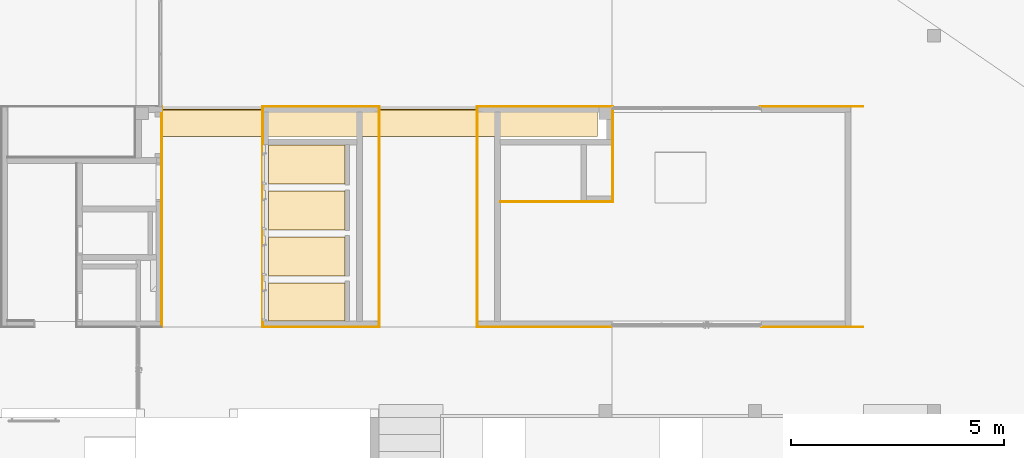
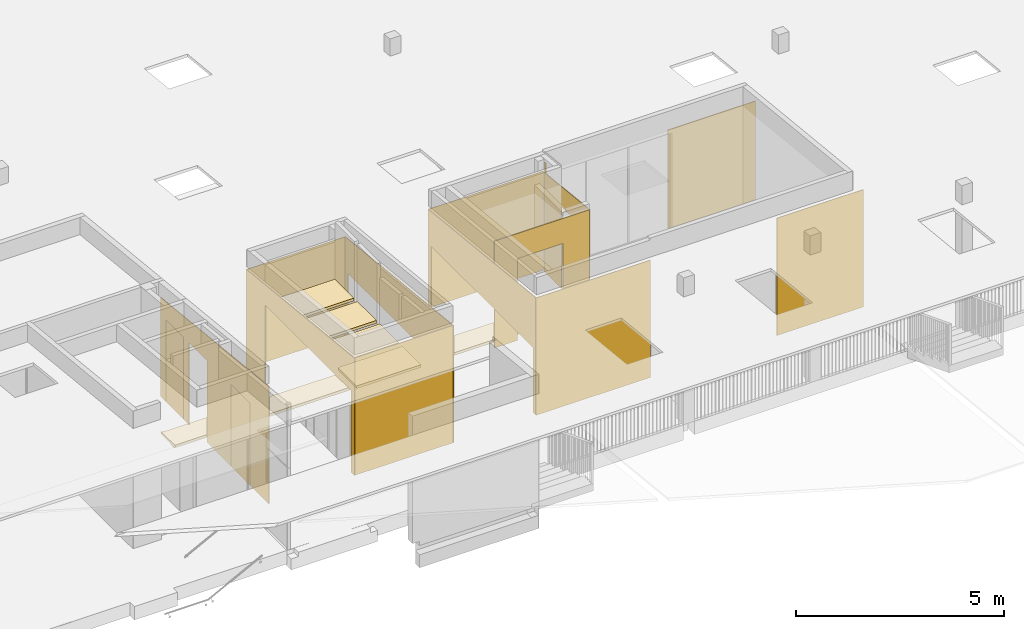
# One storey, part 35 of 43: 17 coverings, 2 doors, 8 openings.
"""IFC2X3 building model written with IfcOpenShell, lengths in millimetres."""

from ifc_helpers import new_model, entity, si_unit, converted_unit, derived_unit, money_unit, direction, frame, origin_with_axes, place, context, subcontext, project, spatial, faceted_brep, material, material_list, type_object, element, fill, save


model = new_model("IFC2X3")

# Units and contexts
model_context = context("Model", 3, precision=0.01, world=origin_with_axes(), true_north=direction((0.0, 1.0)))
body_context = subcontext(model_context, "Body", "Model", "MODEL_VIEW")
ifc_project = project(units=[si_unit("LENGTHUNIT", "METRE", prefix="MILLI"), si_unit("AREAUNIT", "SQUARE_METRE"), si_unit("VOLUMEUNIT", "CUBIC_METRE"), converted_unit("PLANEANGLEUNIT", "DEGREE", entity("IfcPlaneAngleMeasure", 0.0174532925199), si_unit("PLANEANGLEUNIT", "RADIAN"), dimensions=[0, 0, 0, 0, 0, 0, 0]), si_unit("SOLIDANGLEUNIT", "STERADIAN"), money_unit("EUR"), converted_unit("TIMEUNIT", "Year", entity("IfcTimeMeasure", 31556926.0), si_unit("TIMEUNIT", "SECOND"), dimensions=[0, 0, 1, 0, 0, 0, 0]), si_unit("MASSUNIT", "GRAM", prefix="KILO"), si_unit("THERMODYNAMICTEMPERATUREUNIT", "DEGREE_CELSIUS"), si_unit("LUMINOUSINTENSITYUNIT", "LUMEN"), si_unit("ENERGYUNIT", "JOULE", prefix="MEGA"), derived_unit("THERMALCONDUCTANCEUNIT", [(si_unit("POWERUNIT", "WATT"), 1), (si_unit("LENGTHUNIT", "METRE"), -1), (si_unit("THERMODYNAMICTEMPERATUREUNIT", "KELVIN"), -1)]), derived_unit("SPECIFICHEATCAPACITYUNIT", [(si_unit("ENERGYUNIT", "JOULE"), 1), (si_unit("MASSUNIT", "GRAM", prefix="KILO"), -1), (si_unit("THERMODYNAMICTEMPERATUREUNIT", "KELVIN"), -1)]), derived_unit("MASSDENSITYUNIT", [(si_unit("MASSUNIT", "GRAM", prefix="KILO"), 1), (si_unit("VOLUMEUNIT", "CUBIC_METRE"), -1)])], contexts=[model_context])

# Site, building, storey
site_placement = place(None, origin_with_axes())
site = spatial("IfcSite", under=ifc_project, at=site_placement, Name="L.Koidula tn 11b", CompositionType="ELEMENT")
building_placement = place(site_placement, origin_with_axes())
building = spatial("IfcBuilding", under=site, at=building_placement, Name="Rakvere Riigigümnaasium", CompositionType="ELEMENT")
storey_placement = place(building_placement, frame((0.0, 0.0, 6665.0), z_axis=(0.0, 0.0, 1.0), x_axis=(1.0, 0.0, 0.0)))
storey = spatial("IfcBuildingStorey", under=building, at=storey_placement, Name="3.korrus +6,66", CompositionType="ELEMENT", Elevation=6665.0)

# Coverings
ifc_material_1 = material(Name="mineraalvill+karkass")
ifc_material_2 = material(Name="SKR-02_Kipsplaat")
ifc_material_list_1 = material_list([ifc_material_1, ifc_material_2])
covering_type_1 = type_object("IfcCoveringType", Name="SA-LV-kips 79", PredefinedType="CEILING")
covering_1_placement = place(storey_placement, frame((50119.604162, 19370.4397072, 2400.0), z_axis=(0.0, 0.0, 1.0), x_axis=(1.0, 0.0, 0.0)))
element("IfcCovering", 1, at=covering_1_placement, inside=storey, type_object=covering_type_1, material=ifc_material_list_1, Name="L-04", PredefinedType="CEILING", context=body_context, shape_type="Brep", body=[
    faceted_brep([(1790.3958317, 0.0, 12.5), (1790.3958317, 0.0, 78.5), (0.0, 0.0, 78.5), (0.0, 0.0, 12.5), (1790.3958317, 900.003257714, 12.5), (1790.3958317, 900.003257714, 78.5), (0.0, 900.003257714, 78.5), (0.0, 900.003257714, 12.5)], [[[0, 1, 2, 3]], [[4, 5, 1, 0]], [[2, 1, 5, 6]], [[3, 2, 6, 7]], [[3, 7, 4, 0]], [[7, 6, 5, 4]]]),
    faceted_brep([(0.0, 0.0, 0.0), (1790.3958317, 0.0, 0.0), (1790.3958317, 0.0, 12.5), (0.0, 0.0, 12.5), (0.0, 900.003257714, 0.0), (1790.3958317, 900.003257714, 0.0), (1790.3958317, 900.003257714, 12.5), (0.0, 900.003257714, 12.5)], [[[0, 1, 2, 3]], [[0, 4, 5, 1]], [[1, 5, 6, 2]], [[3, 2, 6, 7]], [[4, 0, 3, 7]], [[5, 4, 7, 6]]]),
])
for number, where, z_axis, x_axis, name in (
    (2, (50119.604162, 20430.4429526, 2400.0), (0.0, 0.0, 1.0), (1.0, 0.0, 0.0), "L-04"),
    (3, (50119.604162, 21510.446198, 2400.0), (0.0, 0.0, 1.0), (1.0, 0.0, 0.0), "L-04"),
    (4, (50119.604162, 22590.4494433, 2400.0), (0.0, 0.0, 1.0), (1.0, 0.0, 0.0), "L-04"),
):
    element("IfcCovering", number, at=place(storey_placement, frame(where, z_axis=z_axis, x_axis=x_axis)), inside=storey, type_object=covering_type_1, material=ifc_material_list_1, Name=name, PredefinedType="CEILING", context=body_context, shape_type="Brep", body=[
        faceted_brep([(1790.3958317, 0.0, 12.5), (1790.3958317, 0.0, 78.5), (0.0, 0.0, 78.5), (0.0, 0.0, 12.5), (1790.3958317, 920.003251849, 12.5), (1790.3958317, 920.003251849, 78.5), (0.0, 920.003251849, 78.5), (0.0, 920.003251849, 12.5)], [[[0, 1, 2, 3]], [[4, 5, 1, 0]], [[2, 1, 5, 6]], [[3, 2, 6, 7]], [[3, 7, 4, 0]], [[7, 6, 5, 4]]]),
        faceted_brep([(0.0, 0.0, 0.0), (1790.3958317, 0.0, 0.0), (1790.3958317, 0.0, 12.5), (0.0, 0.0, 12.5), (0.0, 920.003251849, 0.0), (1790.3958317, 920.003251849, 0.0), (1790.3958317, 920.003251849, 12.5), (0.0, 920.003251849, 12.5)], [[[0, 1, 2, 3]], [[0, 4, 5, 1]], [[1, 5, 6, 2]], [[3, 2, 6, 7]], [[4, 0, 3, 7]], [[5, 4, 7, 6]]]),
    ])

# Covering, openings, doors
ifc_material_3 = material(Name="MDF")
covering_type_2 = type_object("IfcCoveringType", Name="MDF 20", PredefinedType="CLADDING")
covering_2_placement = place(storey_placement, frame((47599.9999955, 24400.4555472, 0.0), z_axis=(0.0, 0.0, 1.0), x_axis=(0.0, -1.0, 0.0)))
covering_2 = element("IfcCovering", 5, at=covering_2_placement, inside=storey, type_object=covering_type_2, material=ifc_material_3, Name="S-05", PredefinedType="CLADDING", context=body_context, shape_type="Brep", body=[
    faceted_brep([(-20.0, 0.0, 2895.49979387), (-20.0, 20.0, 2895.49949027), (-20.0, 20.0, 0.0), (-20.0, 0.0, 0.0), (5177.58928972, 20.0, 3441.7881321), (-9.87085968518e-08, -0.00118496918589, 2897.60187856), (5160.01584041, -0.00118851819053, 3439.94139178), (5177.58640124, 0.0, 3441.7881321), (5180.01583998, 20.0, 3441.7881321), (5180.01583998, 20.0, 0.0), (4270.01583998, 20.0, 0.0), (4270.01583998, 20.0, 2400.0), (3360.01583998, 20.0, 2400.0), (3360.01583998, 20.0, 0.0), (2200.0, 20.0, 0.0), (2200.0, 20.0, 2400.0), (1340.0, 20.0, 2400.0), (1340.0, 20.0, 0.0), (1090.0, 20.0, 0.0), (1090.0, 20.0, 2400.0), (230.0, 20.0, 2400.0), (230.0, 20.0, 0.0), (230.0, 0.0, 0.0), (230.0, 0.0, 2400.0), (1090.0, 0.0, 2400.0), (1090.0, 0.0, 0.0), (1340.0, 0.0, 0.0), (1340.0, 0.0, 2400.0), (2200.0, 0.0, 2400.0), (2200.0, 0.0, 0.0), (3360.01583998, 0.0, 0.0), (3360.01583998, 0.0, 2400.0), (4270.01583998, 0.0, 2400.0), (4270.01583998, 0.0, 0.0), (5180.01583998, 0.0, 0.0), (5180.01583998, 0.0, 3441.7881321)], [[[0, 1, 2, 3]], [[4, 1, 0, 5, 6, 7]], [[1, 4, 8, 9, 10, 11, 12, 13, 14, 15, 16, 17, 18, 19, 20, 21, 2]], [[21, 22, 3, 2]], [[5, 0, 3, 22, 23, 24, 25, 26, 27, 28, 29, 30, 31, 32, 33, 34, 35, 7, 6]], [[4, 7, 35, 8]], [[34, 9, 8, 35]], [[34, 33, 10, 9]], [[32, 11, 10, 33]], [[31, 12, 11, 32]], [[30, 13, 12, 31]], [[14, 13, 30, 29]], [[14, 29, 28, 15]], [[15, 28, 27, 16]], [[16, 27, 26, 17]], [[25, 18, 17, 26]], [[19, 18, 25, 24]], [[20, 19, 24, 23]], [[21, 20, 23, 22]]]),
])
opening_1_placement = place(covering_2_placement, frame((660.0, 0.0, 0.0), z_axis=(0.0, 0.0, 1.0), x_axis=(1.0, 0.0, 0.0)))
opening_1 = element("IfcOpeningElement", 6, at=opening_1_placement, cuts=covering_2, Name="SL05", context=body_context, shape_type="Brep", body=[
    faceted_brep([(-430.0, 40.0, 2400.0), (-430.0, 40.0, 0.0), (-430.0, -20.0, 0.0), (-430.0, -20.0, 2400.0), (430.0, 40.0, 2400.0), (430.0, 40.0, 0.0), (430.0, -20.0, 0.0), (430.0, -20.0, 2400.0)], [[[0, 1, 2, 3]], [[0, 4, 5, 1]], [[1, 5, 6, 2]], [[3, 2, 6, 7]], [[4, 0, 3, 7]], [[5, 4, 7, 6]]]),
])
opening_2_placement = place(covering_2_placement, frame((3815.01583998, 0.0, 0.0), z_axis=(0.0, 0.0, 1.0), x_axis=(1.0, 0.0, 0.0)))
opening_2 = element("IfcOpeningElement", 7, at=opening_2_placement, cuts=covering_2, Name="SL06", context=body_context, shape_type="Brep", body=[
    faceted_brep([(-455.0, 40.0, 2400.0), (-455.0, 40.0, 0.0), (-455.0, -20.0, 0.0), (-455.0, -20.0, 2400.0), (455.0, 40.0, 2400.0), (455.0, 40.0, 0.0), (455.0, -20.0, 0.0), (455.0, -20.0, 2400.0)], [[[0, 1, 2, 3]], [[0, 4, 5, 1]], [[1, 5, 6, 2]], [[3, 2, 6, 7]], [[4, 0, 3, 7]], [[5, 4, 7, 6]]]),
])
opening_3_placement = place(covering_2_placement, frame((1770.0, 0.0, 0.0), z_axis=(0.0, 0.0, 1.0), x_axis=(1.0, 0.0, 0.0)))
element("IfcOpeningElement", 8, at=opening_3_placement, cuts=covering_2, Name="ava", context=body_context, shape_type="Brep", body=[
    faceted_brep([(-430.0, -20.0, 0.0), (-430.0, -20.0, 2400.0), (-430.0, 40.0, 2400.0), (-430.0, 40.0, 0.0), (430.0, -20.0, 0.0), (430.0, -20.0, 2400.0), (430.0, 40.0, 2400.0), (430.0, 40.0, 0.0)], [[[0, 1, 2, 3]], [[0, 4, 5, 1]], [[1, 5, 6, 2]], [[3, 2, 6, 7]], [[4, 0, 3, 7]], [[5, 4, 7, 6]]]),
])
door_style = type_object("IfcDoorStyle", Name="Door 23", ConstructionType="NOTDEFINED", OperationType="SINGLE_SWING_LEFT", ParameterTakesPrecedence=False, Sizeable=False)
door_1_placement = place(opening_1_placement, frame((-430.0, 0.0, 0.0), z_axis=(0.0, 0.0, 1.0), x_axis=(1.0, 0.0, 0.0)))
door_1 = element("IfcDoor", 9, at=door_1_placement, inside=storey, type_object=door_style, Name="SL05", ObjectType="DOOR", OverallHeight=2400.0, OverallWidth=860.0, context=body_context, shape_type="Brep", body=[
    faceted_brep([(0.0, 0.0, 0.0), (0.0, 20.0, 0.0), (860.0, 20.0, 0.0), (860.0, 0.0, 0.0), (0.0, 0.0, 2400.0), (0.0, 20.0, 2400.0), (860.0, 20.0, 2400.0), (860.0, 0.0, 2400.0)], [[[0, 1, 2, 3]], [[4, 5, 1, 0]], [[2, 1, 5, 6]], [[3, 2, 6, 7]], [[4, 0, 3, 7]], [[7, 6, 5, 4]]]),
])
fill(opening_1, door_1)
door_2_placement = place(opening_2_placement, frame((-455.0, 0.0, 0.0), z_axis=(0.0, 0.0, 1.0), x_axis=(1.0, 0.0, 0.0)))
door_2 = element("IfcDoor", 10, at=door_2_placement, inside=storey, type_object=door_style, Name="SL06", ObjectType="DOOR", OverallHeight=2400.0, OverallWidth=910.0, context=body_context, shape_type="Brep", body=[
    faceted_brep([(0.0, 0.0, 0.0), (0.0, 20.0, 0.0), (910.0, 20.0, 0.0), (910.0, 0.0, 0.0), (0.0, 0.0, 2400.0), (0.0, 20.0, 2400.0), (910.0, 20.0, 2400.0), (910.0, 0.0, 2400.0)], [[[0, 1, 2, 3]], [[4, 5, 1, 0]], [[2, 1, 5, 6]], [[3, 2, 6, 7]], [[4, 0, 3, 7]], [[7, 6, 5, 4]]]),
])
fill(opening_2, door_2)

# Covering, opening
covering_3_placement = place(storey_placement, frame((55029.9980025, 19240.4397072, 0.0), z_axis=(0.0, 0.0, 1.0), x_axis=(0.0, 1.0, 0.0)))
covering_3 = element("IfcCovering", 11, at=covering_3_placement, inside=storey, type_object=covering_type_2, material=ifc_material_3, Name="S-05", PredefinedType="CLADDING", context=body_context, shape_type="Brep", body=[
    faceted_brep([(5160.01583998, 20.0, 2897.48939807), (5160.01583967, 0.00118514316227, 2897.48909453), (5160.01583998, 0.0, 0.0), (5160.01583998, 20.0, 0.0), (7.88347165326e-08, 0.0011796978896, 3439.82860765), (0.0, 20.0, 3439.82891123), (0.0, 0.0, 0.0), (130.0, 0.0, 0.0), (130.0, 0.0, 1900.0), (5030.01583998, 0.0, 1900.0), (5030.01583998, 0.0, 0.0), (5030.01583998, 20.0, 0.0), (5030.01583998, 20.0, 1900.0), (130.0, 20.0, 1900.0), (130.0, 20.0, 0.0), (0.0, 20.0, 0.0)], [[[0, 1, 2, 3]], [[4, 1, 0, 5]], [[1, 4, 6, 7, 8, 9, 10, 2]], [[2, 10, 11, 3]], [[5, 0, 3, 11, 12, 13, 14, 15]], [[4, 5, 15, 6]], [[15, 14, 7, 6]], [[13, 8, 7, 14]], [[12, 9, 8, 13]], [[11, 10, 9, 12]]]),
])
opening_4_placement = place(covering_3_placement, frame((2580.00791999, 0.0, 0.0), z_axis=(0.0, 0.0, 1.0), x_axis=(1.0, 0.0, 0.0)))
element("IfcOpeningElement", 12, at=opening_4_placement, cuts=covering_3, Name="ava", context=body_context, shape_type="Brep", body=[
    faceted_brep([(-2450.00791999, -20.0, 0.0), (-2450.00791999, -20.0, 1900.0), (-2450.00791999, 40.0, 1900.0), (-2450.00791999, 40.0, 0.0), (2450.00791999, -20.0, 0.0), (2450.00791999, -20.0, 1900.0), (2450.00791999, 40.0, 1900.0), (2450.00791999, 40.0, 0.0)], [[[0, 1, 2, 3]], [[0, 4, 5, 1]], [[1, 5, 6, 2]], [[3, 2, 6, 7]], [[4, 0, 3, 7]], [[5, 4, 7, 6]]]),
])

covering_4_placement = place(storey_placement, frame((49989.604162, 19240.4397072, 0.0), z_axis=(0.0, 0.0, 1.0), x_axis=(0.0, 1.0, 0.0)))
covering_4 = element("IfcCovering", 13, at=covering_4_placement, inside=storey, type_object=covering_type_2, material=ifc_material_3, Name="S-05", PredefinedType="CLADDING", context=body_context, shape_type="Brep", body=[
    faceted_brep([(5180.01583998, 20.0, 2895.46382433), (5180.01583998, 0.0, 2895.46352073), (5180.01583998, 0.0, 0.0), (5180.01583998, 20.0, 0.0), (5160.01583968, 0.00118548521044, 2897.56560547), (-17.9127885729, 20.0, 3441.7881321), (-17.9156770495, 0.0, 3441.7881321), (9.38342736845e-08, 0.001185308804, 3439.90511859), (-20.0, 0.0, 3441.7881321), (-20.0, 0.0, 0.0), (135.0, 0.0, 0.0), (135.0, 0.0, 2400.0), (4265.01298143, 0.0, 2400.0), (4265.01298143, 0.0, 0.0), (4265.01298143, 20.0, 0.0), (4265.01298143, 20.0, 2400.0), (135.0, 20.0, 2400.0), (135.0, 20.0, 0.0), (-20.0, 20.0, 0.0), (-20.0, 20.0, 3441.7881321)], [[[0, 1, 2, 3]], [[4, 1, 0, 5, 6, 7]], [[7, 6, 8, 9, 10, 11, 12, 13, 2, 1, 4]], [[2, 13, 14, 3]], [[5, 0, 3, 14, 15, 16, 17, 18, 19]], [[6, 5, 19, 8]], [[9, 8, 19, 18]], [[18, 17, 10, 9]], [[16, 11, 10, 17]], [[15, 12, 11, 16]], [[14, 13, 12, 15]]]),
])
opening_5_placement = place(covering_4_placement, frame((2200.00649072, 0.0, 0.0), z_axis=(0.0, 0.0, 1.0), x_axis=(1.0, 0.0, 0.0)))
element("IfcOpeningElement", 14, at=opening_5_placement, cuts=covering_4, Name="ava", context=body_context, shape_type="Brep", body=[
    faceted_brep([(-2065.00649072, -20.0, 0.0), (-2065.00649072, -20.0, 2400.0), (-2065.00649072, 40.0, 2400.0), (-2065.00649072, 40.0, 0.0), (2065.00649072, -20.0, 0.0), (2065.00649072, -20.0, 2400.0), (2065.00649072, 40.0, 2400.0), (2065.00649072, 40.0, 0.0)], [[[0, 1, 2, 3]], [[0, 4, 5, 1]], [[1, 5, 6, 2]], [[3, 2, 6, 7]], [[4, 0, 3, 7]], [[5, 4, 7, 6]]]),
])

covering_5_placement = place(storey_placement, frame((52709.9999937, 24400.4555472, 0.0), z_axis=(0.0, 0.0, 1.0), x_axis=(0.0, -1.0, 0.0)))
covering_5 = element("IfcCovering", 15, at=covering_5_placement, inside=storey, type_object=covering_type_2, material=ifc_material_3, Name="S-05", PredefinedType="CLADDING", context=body_context, shape_type="Brep", body=[
    faceted_brep([(-4.24527968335e-07, -0.000693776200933, 2897.52431098), (0.0, 20.0, 2897.52400743), (0.0, 20.0, 0.0), (0.0, 0.0, 0.0), (5178.32729549, 20.0, 3441.7881321), (5160.01584002, -0.00118440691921, 3439.8638242), (5178.32440702, 0.0, 3441.7881321), (5180.01583998, 20.0, 3441.7881321), (5180.01583998, 20.0, 0.0), (5025.01583998, 20.0, 0.0), (5025.01583998, 20.0, 1900.0), (130.0, 20.0, 1900.0), (130.0, 20.0, 0.0), (130.0, 0.0, 0.0), (130.0, 0.0, 1900.0), (5025.01583998, 0.0, 1900.0), (5025.01583998, 0.0, 0.0), (5180.01583998, 0.0, 0.0), (5180.01583998, 0.0, 3441.7881321)], [[[0, 1, 2, 3]], [[4, 1, 0, 5, 6]], [[1, 4, 7, 8, 9, 10, 11, 12, 2]], [[2, 12, 13, 3]], [[5, 0, 3, 13, 14, 15, 16, 17, 18, 6]], [[4, 6, 18, 7]], [[7, 18, 17, 8]], [[17, 16, 9, 8]], [[15, 10, 9, 16]], [[14, 11, 10, 15]], [[13, 12, 11, 14]]]),
])
opening_6_placement = place(covering_5_placement, frame((2577.50791999, 0.0, 0.0), z_axis=(0.0, 0.0, 1.0), x_axis=(1.0, 0.0, 0.0)))
element("IfcOpeningElement", 16, at=opening_6_placement, cuts=covering_5, Name="ava", context=body_context, shape_type="Brep", body=[
    faceted_brep([(2447.50791999, 20.0, 0.0), (2447.50791999, 20.0, 1900.0), (2447.50791999, -40.0, 1900.0), (2447.50791999, -40.0, 0.0), (-2447.50791999, 20.0, 0.0), (-2447.50791999, 20.0, 1900.0), (-2447.50791999, -40.0, 1900.0), (-2447.50791999, -40.0, 0.0)], [[[0, 1, 2, 3]], [[0, 4, 5, 1]], [[1, 5, 6, 2]], [[3, 2, 6, 7]], [[4, 0, 3, 7]], [[5, 4, 7, 6]]]),
])

# Coverings
covering_6_placement = place(storey_placement, frame((49989.604162, 24400.4555472, 0.0), z_axis=(0.0, 0.0, 1.0), x_axis=(1.0, 0.0, 0.0)))
element("IfcCovering", 17, at=covering_6_placement, inside=storey, type_object=covering_type_2, material=ifc_material_3, Name="S-05", PredefinedType="CLADDING", context=body_context, shape_type="Brep", body=[
    faceted_brep([(0.0, 20.0, 2895.46352073), (2740.3958317, 20.0, 2895.42192274), (2740.3958317, 20.0, 0.0), (0.0, 20.0, 0.0), (2740.3958317, 0.0, 2897.52400743), (-0.00118548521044, -2.98150837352e-07, 2897.56560547), (2720.39513793, 4.24527968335e-07, 2897.52431098), (2740.3958317, 0.0, 0.0), (0.0, 0.0, 0.0)], [[[0, 1, 2, 3]], [[4, 1, 0, 5, 6]], [[1, 4, 7, 2]], [[3, 2, 7, 8]], [[5, 0, 3, 8]], [[6, 5, 8, 7, 4]]]),
])
covering_7_placement = place(storey_placement, frame((52709.9999937, 19240.4397072, 0.0), z_axis=(0.0, 0.0, 1.0), x_axis=(-1.0, 0.0, 0.0)))
element("IfcCovering", 18, at=covering_7_placement, inside=storey, type_object=covering_type_2, material=ifc_material_3, Name="S-05", PredefinedType="CLADDING", context=body_context, shape_type="Brep", body=[
    faceted_brep([(2720.39701701, -9.38342736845e-08, 3439.90511859), (0.00118440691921, 3.88205023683e-08, 3439.8638242), (0.0, 0.0, 0.0), (2720.3958317, 0.0, 0.0), (0.0, 18.3085670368, 3441.7881321), (2720.3958317, 17.9156770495, 3441.7881321), (0.0, 20.0, 3441.7881321), (0.0, 20.0, 0.0), (2720.3958317, 20.0, 0.0), (2720.3958317, 20.0, 3441.7881321)], [[[0, 1, 2, 3]], [[4, 1, 0, 5]], [[1, 4, 6, 7, 2]], [[7, 8, 3, 2]], [[5, 0, 3, 8, 9]], [[4, 5, 9, 6]], [[6, 9, 8, 7]]]),
])

# Covering, opening
covering_8_placement = place(storey_placement, frame((58190.0348101, 24336.4555472, 0.0), z_axis=(0.0, 0.0, 1.0), x_axis=(0.0, -1.0, 0.0)))
covering_8 = element("IfcCovering", 19, at=covering_8_placement, inside=storey, type_object=covering_type_2, material=ifc_material_3, Name="S-05", PredefinedType="CLADDING", context=body_context, shape_type="Brep", body=[
    faceted_brep([(65.9999021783, -0.00113854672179, 3211.59828789), (65.9999021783, 20.0, 3211.59828789), (0.0, 20.0, 3211.59828789), (0.0, 0.0, 3211.59828789), (65.9999021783, 20.0, 2911.96740113), (65.9999021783, -0.00113854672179, 2911.96770474), (2155.91262084, 20.0, 3131.62607691), (2175.80285855, 20.0, 3131.62607691), (2175.80285855, 20.0, 0.0), (2025.80285855, 20.0, 0.0), (2025.80285855, 20.0, 2400.0), (825.802858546, 20.0, 2400.0), (825.802858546, 20.0, 0.0), (0.0, 20.0, 0.0), (0.0, 0.0, 0.0), (825.802858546, 0.0, 0.0), (825.802858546, 0.0, 2400.0), (2025.80285855, 0.0, 2400.0), (2025.80285855, 0.0, 0.0), (2175.80285855, 0.0, 0.0), (2175.80285855, 0.0, 3131.62607691), (2155.90973236, -0.00113854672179, 3131.62607692), (2025.8028758, -0.00113854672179, 3117.9512954), (825.802859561, -0.00113854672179, 2991.82621269)], [[[0, 1, 2, 3]], [[4, 1, 0, 5]], [[4, 6, 7, 8, 9, 10, 11, 12, 13, 2, 1]], [[13, 14, 3, 2]], [[5, 0, 3, 14, 15, 16, 17, 18, 19, 20, 21, 22, 23]], [[6, 4, 5, 23, 22, 21]], [[6, 21, 20, 7]], [[19, 8, 7, 20]], [[19, 18, 9, 8]], [[17, 10, 9, 18]], [[16, 11, 10, 17]], [[15, 12, 11, 16]], [[13, 12, 15, 14]]]),
])
opening_7_placement = place(covering_8_placement, frame((1425.80285855, 0.0, 0.0), z_axis=(0.0, 0.0, 1.0), x_axis=(1.0, 0.0, 0.0)))
element("IfcOpeningElement", 20, at=opening_7_placement, cuts=covering_8, Name="ava", context=body_context, shape_type="Brep", body=[
    faceted_brep([(-600.0, -40.0, 0.0), (-600.0, -40.0, 2400.0), (-600.0, 20.0, 2400.0), (-600.0, 20.0, 0.0), (600.0, -40.0, 0.0), (600.0, -40.0, 2400.0), (600.0, 20.0, 2400.0), (600.0, 20.0, 0.0)], [[[0, 1, 2, 3]], [[0, 4, 5, 1]], [[1, 5, 6, 2]], [[3, 2, 6, 7]], [[4, 0, 3, 7]], [[5, 4, 7, 6]]]),
])

covering_9_placement = place(storey_placement, frame((58190.0348101, 22180.6526887, 0.0), z_axis=(0.0, 0.0, 1.0), x_axis=(-1.0, 0.0, 0.0)))
covering_9 = element("IfcCovering", 21, at=covering_9_placement, inside=storey, type_object=covering_type_2, material=ifc_material_3, Name="S-05", PredefinedType="CLADDING", context=body_context, shape_type="Brep", body=[
    faceted_brep([(740.0, 0.0, 2400.0), (2000.00414995, 0.0, 2400.0), (2000.00414995, 0.0, 0.0), (2629.99001329, 0.0, 0.0), (2629.99001329, 0.0, 3131.62607691), (0.0, 0.0, 3131.62607691), (0.0, 0.0, 0.0), (740.0, 0.0, 0.0), (2000.00414995, 20.0, 2400.0), (740.0, 20.0, 2400.0), (2000.00414995, 20.0, 0.0), (2629.99001329, 20.0, 0.0), (2629.99001329, 20.0, 3131.62607691), (0.0, 20.0, 3131.62607691), (0.0, 20.0, 0.0), (740.0, 20.0, 0.0)], [[[0, 1, 2, 3, 4, 5, 6, 7]], [[8, 1, 0, 9]], [[10, 2, 1, 8]], [[3, 2, 10, 11]], [[12, 4, 3, 11]], [[5, 4, 12, 13]], [[6, 5, 13, 14]], [[14, 15, 7, 6]], [[9, 0, 7, 15]], [[8, 9, 15, 14, 13, 12, 11, 10]]]),
])
opening_8_placement = place(covering_9_placement, frame((1370.00207497, 0.0, 0.0), z_axis=(0.0, 0.0, 1.0), x_axis=(1.0, 0.0, 0.0)))
element("IfcOpeningElement", 22, at=opening_8_placement, cuts=covering_9, Name="ava", context=body_context, shape_type="Brep", body=[
    faceted_brep([(-630.002074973, -20.0, 0.0), (-630.002074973, -20.0, 2400.0), (-630.002074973, 40.0, 2400.0), (-630.002074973, 40.0, 0.0), (630.002074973, -20.0, 0.0), (630.002074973, -20.0, 2400.0), (630.002074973, 40.0, 2400.0), (630.002074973, 40.0, 0.0)], [[[0, 1, 2, 3]], [[0, 4, 5, 1]], [[1, 5, 6, 2]], [[3, 2, 6, 7]], [[4, 0, 3, 7]], [[5, 4, 7, 6]]]),
])

# Coverings
covering_10_placement = place(storey_placement, frame((55029.9980025, 24400.4555472, 0.0), z_axis=(0.0, 0.0, 1.0), x_axis=(1.0, 0.0, 0.0)))
element("IfcCovering", 23, at=covering_10_placement, inside=storey, type_object=covering_type_2, material=ifc_material_3, Name="S-05", PredefinedType="CLADDING", context=body_context, shape_type="Brep", body=[
    faceted_brep([(-20.0, 20.0, 2895.38731338), (-0.00118519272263, 20.0, 2895.38700981), (3180.02294776, 20.0, 2895.33873846), (3180.02294776, 20.0, 0.0), (-20.0, 20.0, 0.0), (-20.0, 0.0, 2897.48939807), (-0.00118514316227, -3.13139736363e-07, 2897.48909453), (3180.02294776, -1.69752212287e-07, 2897.44082316), (3180.02294776, 0.0, 0.0), (-20.0, 0.0, 0.0)], [[[0, 1, 2, 3, 4]], [[1, 0, 5, 6]], [[7, 2, 1, 6]], [[2, 7, 8, 3]], [[9, 4, 3, 8]], [[5, 0, 4, 9]], [[6, 5, 9, 8, 7]]]),
])
covering_11_placement = place(storey_placement, frame((58180.0347249, 19240.4397072, 0.0), z_axis=(0.0, 0.0, 1.0), x_axis=(-1.0, 0.0, 0.0)))
element("IfcCovering", 24, at=covering_11_placement, inside=storey, type_object=covering_type_2, material=ifc_material_3, Name="S-05", PredefinedType="CLADDING", context=body_context, shape_type="Brep", body=[
    faceted_brep([(3170.03672231, 0.0, 3439.82891123), (3150.037902, -7.88347165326e-08, 3439.82860765), (0.0, 1.11811004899e-07, 3439.78079149), (0.0, 0.0, 0.0), (3170.03672231, 0.0, 0.0), (3170.03672231, 18.64074156, 3441.7881321), (3150.03790197, 18.6436298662, 3441.7881321), (0.0, 19.0985704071, 3441.7881321), (0.0, 20.0, 3441.7881321), (0.0, 20.0, 0.0), (3170.03672231, 20.0, 0.0), (3170.03672231, 20.0, 3441.7881321)], [[[0, 1, 2, 3, 4]], [[1, 0, 5, 6]], [[7, 2, 1, 6]], [[2, 7, 8, 9, 3]], [[9, 10, 4, 3]], [[5, 0, 4, 10, 11]], [[6, 5, 11, 8, 7]], [[8, 11, 10, 9]]]),
])
covering_12_placement = place(storey_placement, frame((61660.1873323, 24400.4555472, 0.0), z_axis=(0.0, 0.0, 1.0), x_axis=(1.0, 0.0, 0.0)))
element("IfcCovering", 25, at=covering_12_placement, inside=storey, type_object=covering_type_2, material=ifc_material_3, Name="S-05", PredefinedType="CLADDING", context=body_context, shape_type="Brep", body=[
    faceted_brep([(0.0, 20.0, 2895.28636646), (2429.81067027, 20.0, 2895.24948302), (2429.81067027, 20.0, 0.0), (0.0, 20.0, 0.0), (2429.81067027, 0.0, 2897.3515677), (0.0, -1.41824330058e-08, 2897.38845115), (2139.81056615, 8.23021650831e-08, 2897.35596976), (2429.81067027, 0.0, 0.0), (0.0, 0.0, 0.0)], [[[0, 1, 2, 3]], [[4, 1, 0, 5, 6]], [[1, 4, 7, 2]], [[8, 3, 2, 7]], [[5, 0, 3, 8]], [[6, 5, 8, 7, 4]]]),
])
covering_13_placement = place(storey_placement, frame((64089.9980025, 19240.4397072, 0.0), z_axis=(0.0, 0.0, 1.0), x_axis=(-1.0, 0.0, 0.0)))
element("IfcCovering", 26, at=covering_13_placement, inside=storey, type_object=covering_type_2, material=ifc_material_3, Name="S-05", PredefinedType="CLADDING", context=body_context, shape_type="Brep", body=[
    faceted_brep([(2399.97707154, 3.24238413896e-07, 3439.72751148), (290.000103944, 4.51937154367e-07, 3439.69548298), (0.0, 0.0, 3439.69108086), (0.0, 0.0, 0.0), (2399.97707154, 0.0, 0.0), (-7.55733253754e-08, 19.9994767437, 3441.79311055), (2399.97707154, 19.605496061, 3441.7881321), (0.0, 20.0, 0.0), (2399.97707154, 20.0, 0.0), (2399.97707154, 20.0, 3441.7881321)], [[[0, 1, 2, 3, 4]], [[5, 2, 1, 0, 6]], [[2, 5, 7, 3]], [[3, 7, 8, 4]], [[6, 0, 4, 8, 9]], [[5, 6, 9]], [[7, 5, 9, 8]]]),
])
ifc_material_4 = material(Name="Karkass")
ifc_material_5 = material(Name="Kipsplaat-erikõva")
ifc_material_list_2 = material_list([ifc_material_4, ifc_material_5, ifc_material_5])
covering_type_3 = type_object("IfcCoveringType", Name="Karkassil karbik 92", PredefinedType="CEILING")
covering_14_placement = place(storey_placement, frame((57845.0348101, 23701.3555432, -1085.0), z_axis=(0.0, 0.0, 1.0), x_axis=(1.0, 0.0, 0.0)))
element("IfcCovering", 27, at=covering_14_placement, inside=storey, type_object=covering_type_3, material=ifc_material_list_2, Name="L-01", PredefinedType="CEILING", context=body_context, shape_type="Brep", body=[
    faceted_brep([(0.0, 629.999944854, 25.5), (0.0, 629.999944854, 91.5), (0.0, 0.0, 91.5), (0.0, 0.0, 25.5), (-10235.0348166, 629.999944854, 91.5), (-10235.0348166, 629.999944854, 25.5), (-10235.0348166, 642.999944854, 91.5), (-10233.0348166, 642.999944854, 91.5), (-10233.0348166, 655.499944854, 91.5), (-10265.0348166, 655.499944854, 91.5), (-10265.0348166, 0.0, 91.5), (-10265.0348166, 0.0, 25.5), (-10265.0348166, 655.499944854, 25.5), (-10233.0348166, 655.499944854, 25.5), (-10233.0348166, 642.999944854, 25.5), (-10235.0348166, 642.999944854, 25.5)], [[[0, 1, 2, 3]], [[4, 1, 0, 5]], [[6, 7, 8, 9, 10, 2, 1, 4]], [[11, 3, 2, 10]], [[5, 0, 3, 11, 12, 13, 14, 15]], [[6, 4, 5, 15]], [[14, 7, 6, 15]], [[7, 14, 13, 8]], [[8, 13, 12, 9]], [[12, 11, 10, 9]]]),
    faceted_brep([(0.0, 642.999944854, 12.5), (0.0, 642.999944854, 25.5), (0.0, 0.0, 25.5), (0.0, 0.0, 12.5), (-10235.0348166, 642.999944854, 12.5), (-10235.0348166, 642.999944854, 25.5), (-10235.0348166, 563.999944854, 25.5), (-10246.0348166, 563.999944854, 25.5), (-10246.0348166, 300.100676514, 25.5), (-10246.0348166, 205.100676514, 25.5), (-10265.0348166, 205.100676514, 25.5), (-10265.0348166, 0.0, 25.5), (-10265.0348166, 0.0, 12.5), (-10265.0348166, 205.100676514, 12.5), (-10246.0348166, 205.100676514, 12.5), (-10246.0348166, 300.100676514, 12.5), (-10246.0348166, 563.999944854, 12.5), (-10235.0348166, 563.999944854, 12.5)], [[[0, 1, 2, 3]], [[1, 0, 4, 5]], [[1, 5, 6, 7, 8, 9, 10, 11, 2]], [[12, 3, 2, 11]], [[0, 3, 12, 13, 14, 15, 16, 17, 4]], [[6, 5, 4, 17]], [[7, 6, 17, 16]], [[7, 16, 15, 8]], [[8, 15, 14, 9]], [[10, 9, 14, 13]], [[10, 13, 12, 11]]]),
    faceted_brep([(-10265.0348166, 13.0, 12.5), (0.0, 13.0, 12.5), (0.0, 655.499944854, 12.5), (-10233.0348166, 655.499944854, 12.5), (-10233.0348166, 642.999944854, 12.5), (-10235.0348166, 642.999944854, 12.5), (-10235.0348166, 563.999944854, 12.5), (-10233.0348166, 563.999944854, 12.5), (-10233.0348166, 205.100676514, 12.5), (-10233.0348166, 192.100676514, 12.5), (-10265.0348166, 192.100676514, 12.5), (0.0, 13.0, 0.0), (-10265.0348166, 13.0, 0.0), (0.0, 655.499944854, 0.0), (-10233.0348166, 655.499944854, 0.0), (-10233.0348166, 642.999944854, 0.0), (-10235.0348166, 642.999944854, 0.0), (-10235.0348166, 563.999944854, 0.0), (-10233.0348166, 563.999944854, 0.0), (-10233.0348166, 205.100676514, 0.0), (-10233.0348166, 192.100676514, 0.0), (-10265.0348166, 192.100676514, 0.0)], [[[0, 1, 2, 3, 4, 5, 6, 7, 8, 9, 10]], [[11, 1, 0, 12]], [[1, 11, 13, 2]], [[14, 3, 2, 13]], [[4, 3, 14, 15]], [[5, 4, 15, 16]], [[6, 5, 16, 17]], [[6, 17, 18, 7]], [[8, 7, 18, 19]], [[8, 19, 20, 9]], [[10, 9, 20, 21]], [[12, 0, 10, 21]], [[11, 12, 21, 20, 19, 18, 17, 16, 15, 14, 13]]]),
])

save(model, "model.ifc")
